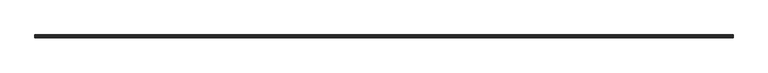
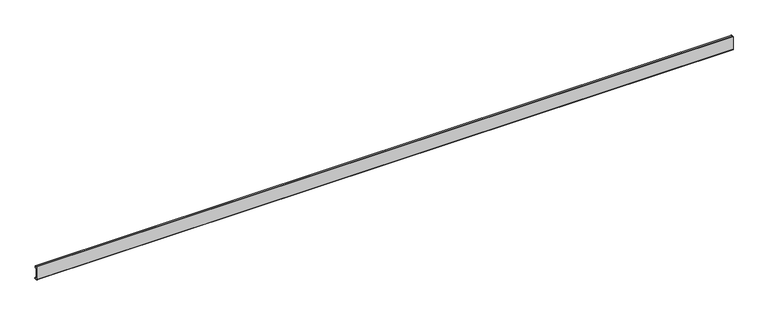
"""IFC4 building model written with IfcOpenShell, lengths in millimetres: proxy geometry, Weiku - Montante - Capa de folha 02.3.02.406 : Weiku - Montante - Capa de folha 02.3.02.406."""

import ifcopenshell
import ifcopenshell.guid

model = None  # the IFC model being written
_history = None  # IfcOwnerHistory: only IFC2X3 demands one
_inside = {}  # id of a spatial element -> (the spatial element, [elements in it])
_under = {}  # id of a project, library or spatial element -> (it, [spatial elements below it])
_declared = {}  # id of a project -> (the project, [libraries it declares])
_typed = {}  # id of a type object -> (the type object, [elements of that type])
_made_of = {}  # id of a material, layer set ... -> (it, [elements and type objects made of it])


def new_model(schema):
    """Start an empty IFC model of exactly this schema.

    Asked for "IFC4X3", IfcOpenShell would pick the latest addendum, in which some entities
    have other attributes; the version numbers below select the first issue.
    IFC2X3 requires an IfcOwnerHistory on every rooted entity: one is made here for all.
    """
    global model, _history
    if schema == "IFC4X3":
        model = ifcopenshell.file(schema_version=(4, 3, 0, 0))
    else:
        model = ifcopenshell.file(schema=schema)
    _inside.clear()
    _under.clear()
    _declared.clear()
    _typed.clear()
    _made_of.clear()
    _history = None
    if model.schema == "IFC2X3":
        org = make("IfcOrganization", Name="unknown")
        user = make(
            "IfcPersonAndOrganization",
            ThePerson=make("IfcPerson", FamilyName="unknown"),
            TheOrganization=org,
        )
        app = make(
            "IfcApplication",
            ApplicationDeveloper=org,
            Version="unknown",
            ApplicationFullName="unknown",
            ApplicationIdentifier="unknown",
        )
        _history = make(
            "IfcOwnerHistory",
            OwningUser=user,
            OwningApplication=app,
            ChangeAction="ADDED",
            CreationDate=0,
        )
    return model


def make(cls, **values):
    """One entity of the class cls with the attributes given. An attribute that is None is left unset."""
    return model.create_entity(
        cls, **{name: value for name, value in values.items() if value is not None}
    )


def rooted(cls, **values):
    """An entity with a GlobalId (a new one), such as an element, a storey or a relation."""
    return make(cls, GlobalId=ifcopenshell.guid.new(), OwnerHistory=_history, **values)


def si_unit(unit_type, name, prefix=None):
    """IfcSIUnit, for example si_unit("LENGTHUNIT", "METRE", prefix="MILLI")."""
    return make("IfcSIUnit", UnitType=unit_type, Prefix=prefix, Name=name)


def assignment(units):
    """IfcUnitAssignment: the units of a project."""
    return None if units is None else make("IfcUnitAssignment", Units=units)


def point(xyz):
    """IfcCartesianPoint."""
    return None if xyz is None else make("IfcCartesianPoint", Coordinates=xyz)


def direction(xyz):
    """IfcDirection."""
    return None if xyz is None else make("IfcDirection", DirectionRatios=xyz)


def frame(location, z_axis=None, x_axis=None):
    """IfcAxis2Placement3D, a coordinate frame: its origin and axes. An axis left out is left unset."""
    return make(
        "IfcAxis2Placement3D",
        Location=point(location),
        Axis=direction(z_axis),
        RefDirection=direction(x_axis),
    )


def frame_2d(location, x_axis=None):
    """IfcAxis2Placement2D, a coordinate frame in the plane: its origin and x axis."""
    return make(
        "IfcAxis2Placement2D", Location=point(location), RefDirection=direction(x_axis)
    )


def origin():
    """The frame at (0, 0, 0) with its axes left unset."""
    return frame((0.0, 0.0, 0.0))


def place(relative_to, where):
    """IfcLocalPlacement: puts the frame where relative to a parent placement (None: the world)."""
    return make(
        "IfcLocalPlacement", PlacementRelTo=relative_to, RelativePlacement=where
    )


def context(
    kind, dimensions, precision=None, world=None, true_north=None, identifier=None
):
    """IfcGeometricRepresentationContext, for example the 3D "Model" context."""
    return make(
        "IfcGeometricRepresentationContext",
        ContextIdentifier=identifier,
        ContextType=kind,
        CoordinateSpaceDimension=dimensions,
        Precision=precision,
        WorldCoordinateSystem=world,
        TrueNorth=true_north,
    )


def project(units=None, contexts=None):
    """IfcProject with its units and contexts."""
    return rooted(
        "IfcProject",
        Name="project",
        RepresentationContexts=contexts,
        UnitsInContext=assignment(units),
    )


def spatial(cls, under=None, at=None, **own):
    """A site, building, storey or space (cls), placed at a placement, below another one or the project."""
    s = rooted(cls, ObjectPlacement=at, **own)
    if under is not None:
        _under.setdefault(under.id(), (under, []))[1].append(s)
    return s


def polyline(points):
    """IfcPolyline through the points."""
    return make("IfcPolyline", Points=[point(p) for p in points])


def circle_curve(where, radius):
    """IfcCircle in the frame where."""
    return make("IfcCircle", Position=where, Radius=radius)


def trimmed(basis, trim1, trim2, sense, master):
    """IfcTrimmedCurve: the piece of a basis curve between two trims."""
    return make(
        "IfcTrimmedCurve",
        BasisCurve=basis,
        Trim1=trim1,
        Trim2=trim2,
        SenseAgreement=sense,
        MasterRepresentation=master,
    )


def segment(curve, same_sense, transition):
    """IfcCompositeCurveSegment."""
    return make(
        "IfcCompositeCurveSegment",
        Transition=transition,
        SameSense=same_sense,
        ParentCurve=curve,
    )


def composite_curve(segments, self_intersect=None):
    """IfcCompositeCurve: segments joined end to end."""
    return make("IfcCompositeCurve", Segments=segments, SelfIntersect=self_intersect)


def outline(outer, holes=None, kind="AREA"):
    """IfcArbitraryClosedProfileDef: a profile drawn as a closed curve; with holes, ...WithVoids."""
    if holes is None:
        return make("IfcArbitraryClosedProfileDef", ProfileType=kind, OuterCurve=outer)
    return make(
        "IfcArbitraryProfileDefWithVoids",
        ProfileType=kind,
        OuterCurve=outer,
        InnerCurves=holes,
    )


def extrude(swept, where, along, depth):
    """IfcExtrudedAreaSolid: the profile swept, set in the frame where, extruded along a direction by depth."""
    return make(
        "IfcExtrudedAreaSolid",
        SweptArea=swept,
        Position=where,
        ExtrudedDirection=direction(along),
        Depth=depth,
    )


def shape(context_of_items, identifier, shape_type, items):
    """IfcShapeRepresentation: the items that make up one representation, for example the "Body"."""
    return make(
        "IfcShapeRepresentation",
        ContextOfItems=context_of_items,
        RepresentationIdentifier=identifier,
        RepresentationType=shape_type,
        Items=items,
    )


def source(mapping_origin, context_of_items, identifier, shape_type, items):
    """IfcRepresentationMap: a shape defined once, which mapped items show again and again."""
    return make(
        "IfcRepresentationMap",
        MappingOrigin=mapping_origin,
        MappedRepresentation=shape(context_of_items, identifier, shape_type, items),
    )


def transform(
    local_origin,
    x_axis=None,
    y_axis=None,
    z_axis=None,
    scale=None,
    scale2=None,
    scale3=None,
    uniform=True,
):
    """IfcCartesianTransformationOperator3D, or its non-uniform kind. x_axis, y_axis, z_axis: its Axis1, 2, 3."""
    if uniform:
        return make(
            "IfcCartesianTransformationOperator3D",
            Axis1=direction(x_axis),
            Axis2=direction(y_axis),
            LocalOrigin=point(local_origin),
            Scale=scale,
            Axis3=direction(z_axis),
        )
    return make(
        "IfcCartesianTransformationOperator3DnonUniform",
        Axis1=direction(x_axis),
        Axis2=direction(y_axis),
        LocalOrigin=point(local_origin),
        Scale=scale,
        Axis3=direction(z_axis),
        Scale2=scale2,
        Scale3=scale3,
    )


def mapped(mapping_source, mapping_target):
    """IfcMappedItem: shows the shape of a source again, moved by a transform."""
    return make(
        "IfcMappedItem", MappingSource=mapping_source, MappingTarget=mapping_target
    )


def made_of(thing, what):
    """Note that an element or type object is made of a material, layer set ...; save() writes the relation."""
    if what is not None:
        _made_of.setdefault(what.id(), (what, []))[1].append(thing)
    return thing


def element(
    cls,
    number,
    at=None,
    inside=None,
    cuts=None,
    type_object=None,
    material=None,
    context=None,
    identifier="Body",
    shape_type=None,
    held_by="IfcProductDefinitionShape",
    body=None,
    shapes=None,
    **own,
):
    """One element of the class cls, such as IfcWall. Its Tag is "e" and its number.

    at: its placement. inside: the storey or other place that contains it. cuts: it is an
    opening in that element (IfcRelVoidsElement). A single representation is given by context,
    identifier, shape_type and body (its items); several are given by shapes. held_by: the class
    of the entity that holds the representations. save() writes the other relations.
    """
    e = rooted(cls, Tag="e%d" % number, ObjectPlacement=at, **own)
    if body is not None:
        shapes = [shape(context, identifier, shape_type, body)]
    if shapes is not None:
        e.Representation = make(held_by, Representations=shapes)
    if inside is not None:
        _inside.setdefault(inside.id(), (inside, []))[1].append(e)
    if cuts is not None:
        rooted(
            "IfcRelVoidsElement", RelatingBuildingElement=cuts, RelatedOpeningElement=e
        )
    if type_object is not None:
        _typed.setdefault(type_object.id(), (type_object, []))[1].append(e)
    return made_of(e, material)


def aggregate(whole, parts):
    """IfcRelAggregates: a whole, such as a stair, and the parts it consists of."""
    return rooted("IfcRelAggregates", RelatingObject=whole, RelatedObjects=parts)


def save(model, path):
    """Write the relations noted so far, then the file.

    IfcRelAggregates (storeys below a building ...), IfcRelContainedInSpatialStructure (elements
    in a storey), IfcRelDefinesByType, IfcRelAssociatesMaterial and IfcRelDeclares: one each for
    every whole, place, type object, material and project.
    """
    for whole, parts in _under.values():
        aggregate(whole, parts)
    for where, things in _inside.values():
        rooted(
            "IfcRelContainedInSpatialStructure",
            RelatedElements=things,
            RelatingStructure=where,
        )
    for kind, things in _typed.values():
        rooted("IfcRelDefinesByType", RelatedObjects=things, RelatingType=kind)
    for what, things in _made_of.values():
        rooted("IfcRelAssociatesMaterial", RelatedObjects=things, RelatingMaterial=what)
    for by, libraries in _declared.values():
        rooted("IfcRelDeclares", RelatingContext=by, RelatedDefinitions=libraries)
    model.write(path)


def generic_models_9053b11b(model_context):
    return source(origin(), model_context, "Body", "SweptSolid", [
        extrude(outline(composite_curve([segment(polyline([(4.6421508, 2.2715508), (5.3603515, 1.056104)]), True, "CONTINUOUS"), segment(trimmed(circle_curve(frame_2d((4.7576991, 0.7)), 0.7), [point((5.3603515, 1.056104))], [point((4.7576991, 0.0))], False, "CARTESIAN"), True, "CONTINUOUS"), segment(polyline([(4.7576991, 0.0), (0.5, 0.0)]), True, "CONTINUOUS"), segment(trimmed(circle_curve(frame_2d((0.5, 0.5)), 0.5), [point((0.5, 0.0))], [point((0.0, 0.5))], False, "CARTESIAN"), True, "CONTINUOUS"), segment(polyline([(0.0, 0.5), (0.0, 26.2)]), True, "CONTINUOUS"), segment(trimmed(circle_curve(frame_2d((0.5, 26.2)), 0.5), [point((0.0, 26.2))], [point((0.5, 26.7))], False, "CARTESIAN"), True, "CONTINUOUS"), segment(polyline([(0.5, 26.7), (3.78, 26.7)]), True, "CONTINUOUS"), segment(trimmed(circle_curve(frame_2d((3.78, 26.2)), 0.5), [point((3.78, 26.7))], [point((4.28, 26.2))], False, "CARTESIAN"), True, "CONTINUOUS"), segment(polyline([(4.28, 26.2), (4.28, 22.3396), (3.3063, 22.3396), (3.3063, 25.684), (1.6933, 25.684), (1.6933, 1.016), (3.3866, 1.016), (4.6421508, 2.2715508)]), True, "CONTINUOUS")], self_intersect=False)), frame((-668.0666667, 0.0, 0.0), z_axis=(1.0, 0.0, 0.0), x_axis=(0.0, 1.0, 0.0)), (0.0, 0.0, 1.0), 1336.1333333),
    ])


if __name__ == "__main__":
    model = new_model("IFC4")
    model_context = context("Model", 3, world=origin())
    ifc_project = project(units=[si_unit("LENGTHUNIT", "METRE", prefix="MILLI")], contexts=[model_context])
    site = spatial("IfcSite", under=ifc_project)
    building = spatial("IfcBuilding", under=site)
    placement = place(None, origin())
    generic_models_shape = generic_models_9053b11b(model_context)
    element("IfcBuildingElementProxy", 1, Name="Weiku - Montante - Capa de folha 02.3.02.406 : Weiku - Montante - Capa de folha 02.3.02.406", ObjectType="Weiku - Montante - Capa de folha 02.3.02.406 : Weiku - Montante - Capa de folha 02.3.02.406", at=placement, inside=building, context=model_context, shape_type="MappedRepresentation", body=[
        mapped(generic_models_shape, transform((0.0, 0.0, 0.0), x_axis=(1.0, 0.0, 0.0), y_axis=(0.0, 1.0, 0.0), z_axis=(0.0, 0.0, 1.0))),
    ])
    save(model, "model.ifc")
